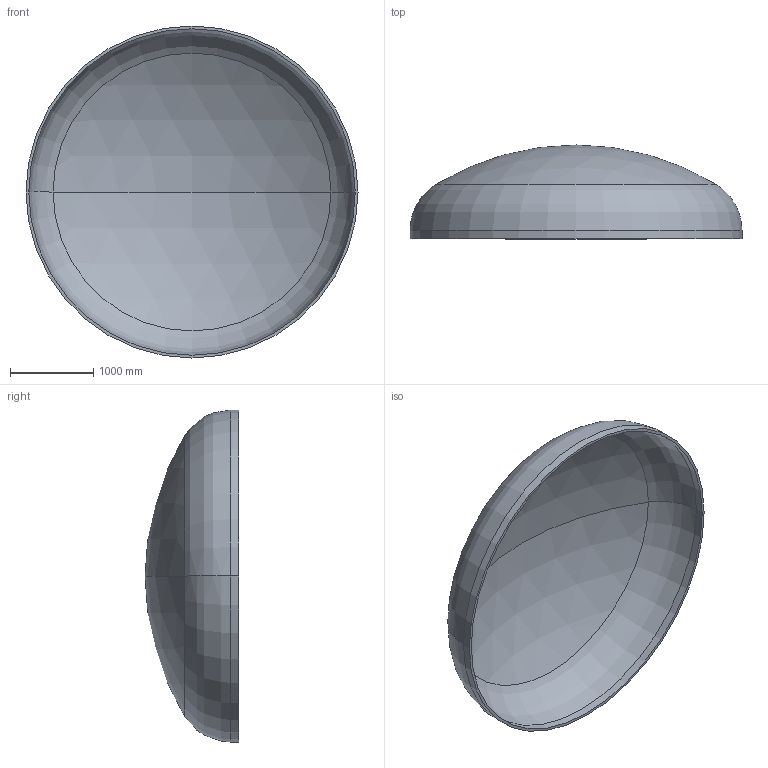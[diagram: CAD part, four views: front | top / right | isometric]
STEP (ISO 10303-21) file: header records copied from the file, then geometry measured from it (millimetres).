
FILE_DESCRIPTION (( 'STEP AP203' ), '1' );
FILE_NAME ('DIN 28013 Korbbogenform_-_Boden DIN 28013 - 4000 x 100 - I - s=33.step', '2016-07-01T22:17:20', ( '' ), ( '' ), 'SwSTEP 2.0', 'SolidWorks 2013', '' );
FILE_SCHEMA (( 'CONFIG_CONTROL_DESIGN' ));
Length unit declared in the file: millimetre
Products named in the file (1): DIN 28013 Korbbogenform_-_Boden DIN 28013 - 4000 x 100 - I - s=33
Bounding box: 4000 x 1129.75 x 4000 mm (x, y, z)
Volume: 609057484.7 mm3; surface area: 37326110.7 mm2
Topology: 1 solids, 1 shells, 13 faces, 24 edges, 14 vertices
Faces by surface type: torus 4, cylinder 4, sphere 4, plane 1
Entity records: 407 total; most frequent: DIRECTION 72, CARTESIAN_POINT 52, ORIENTED_EDGE 48, AXIS2_PLACEMENT_3D 34, EDGE_CURVE 24, CIRCLE 20, VERTEX_POINT 14, EDGE_LOOP 14
